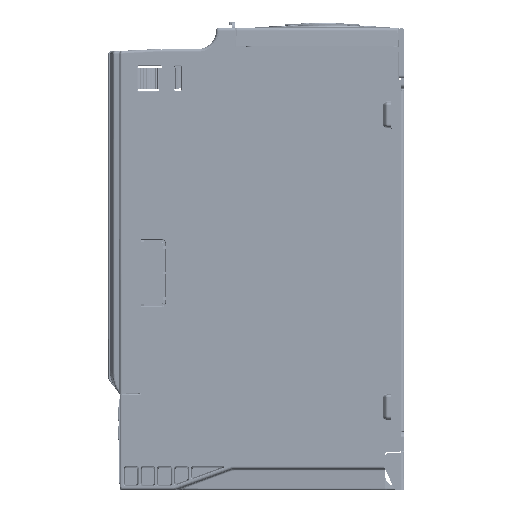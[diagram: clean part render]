
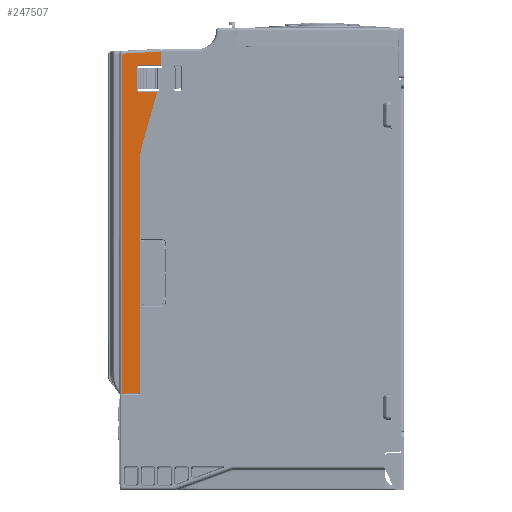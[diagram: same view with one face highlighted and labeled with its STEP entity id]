
A CAD part, left-side view. The second image highlights one B-rep face of the part: STEP entity #247507.
In plain terms, the highlighted planar face has unit normal (-1, 0, 0).
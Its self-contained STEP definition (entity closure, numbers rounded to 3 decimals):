
#7418=CIRCLE('',#265153,30.5);
#7419=CIRCLE('',#265154,1.002);
#7420=CIRCLE('',#265155,1.002);
#18666=PLANE('',#265152);
#31492=FACE_OUTER_BOUND('',#46043,.T.);
#46043=EDGE_LOOP('',(#223616,#223617,#223618,#223619,#223620,#223621,#223622,
#223623,#223624,#223625,#223626,#223627,#223628,#223629));
#69779=LINE('',#475075,#94712);
#69782=LINE('',#475087,#94715);
#69785=LINE('',#475096,#94718);
#69786=LINE('',#475098,#94719);
#69787=LINE('',#475102,#94720);
#69788=LINE('',#475104,#94721);
#69789=LINE('',#475114,#94722);
#69790=LINE('',#475123,#94723);
#69791=LINE('',#475124,#94724);
#94712=VECTOR('',#319901,11.498);
#94715=VECTOR('',#319908,6.972);
#94718=VECTOR('',#319917,9.501);
#94719=VECTOR('',#319918,121.202);
#94720=VECTOR('',#319921,29.477);
#94721=VECTOR('',#319922,9.645);
#94722=VECTOR('',#319925,11.008);
#94723=VECTOR('',#319928,20.528);
#94724=VECTOR('',#319929,177.915);
#101072=B_SPLINE_CURVE_WITH_KNOTS('',3,(#475108,#475109,#475110,#475111,
#475112),.UNSPECIFIED.,.F.,.F.,(4,1,4),(0.,0.5,1.),.UNSPECIFIED.);
#101073=B_SPLINE_CURVE_WITH_KNOTS('',3,(#475116,#475117,#475118,#475119,
#475120),.UNSPECIFIED.,.F.,.F.,(4,1,4),(0.,0.5,1.),.UNSPECIFIED.);
#122113=VERTEX_POINT('',#475072);
#122114=VERTEX_POINT('',#475074);
#122117=VERTEX_POINT('',#475082);
#122119=VERTEX_POINT('',#475094);
#122120=VERTEX_POINT('',#475095);
#122121=VERTEX_POINT('',#475097);
#122122=VERTEX_POINT('',#475099);
#122123=VERTEX_POINT('',#475101);
#122124=VERTEX_POINT('',#475103);
#122125=VERTEX_POINT('',#475105);
#122126=VERTEX_POINT('',#475107);
#122127=VERTEX_POINT('',#475113);
#122128=VERTEX_POINT('',#475115);
#122129=VERTEX_POINT('',#475122);
#156477=EDGE_CURVE('',#122114,#122113,#69779,.T.);
#156482=EDGE_CURVE('',#122117,#122113,#69782,.T.);
#156486=EDGE_CURVE('',#122119,#122120,#69785,.T.);
#156487=EDGE_CURVE('',#122119,#122121,#69786,.T.);
#156488=EDGE_CURVE('',#122121,#122122,#7418,.T.);
#156489=EDGE_CURVE('',#122122,#122123,#69787,.T.);
#156490=EDGE_CURVE('',#122124,#122123,#69788,.T.);
#156491=EDGE_CURVE('',#122125,#122124,#7419,.T.);
#156492=EDGE_CURVE('',#122126,#122125,#101072,.T.);
#156493=EDGE_CURVE('',#122126,#122127,#69789,.T.);
#156494=EDGE_CURVE('',#122128,#122127,#101073,.T.);
#156495=EDGE_CURVE('',#122128,#122114,#7420,.T.);
#156496=EDGE_CURVE('',#122129,#122117,#69790,.T.);
#156497=EDGE_CURVE('',#122129,#122120,#69791,.T.);
#223616=ORIENTED_EDGE('',*,*,#156486,.F.);
#223617=ORIENTED_EDGE('',*,*,#156487,.T.);
#223618=ORIENTED_EDGE('',*,*,#156488,.T.);
#223619=ORIENTED_EDGE('',*,*,#156489,.T.);
#223620=ORIENTED_EDGE('',*,*,#156490,.F.);
#223621=ORIENTED_EDGE('',*,*,#156491,.F.);
#223622=ORIENTED_EDGE('',*,*,#156492,.F.);
#223623=ORIENTED_EDGE('',*,*,#156493,.T.);
#223624=ORIENTED_EDGE('',*,*,#156494,.F.);
#223625=ORIENTED_EDGE('',*,*,#156495,.T.);
#223626=ORIENTED_EDGE('',*,*,#156477,.T.);
#223627=ORIENTED_EDGE('',*,*,#156482,.F.);
#223628=ORIENTED_EDGE('',*,*,#156496,.F.);
#223629=ORIENTED_EDGE('',*,*,#156497,.T.);
#247507=ADVANCED_FACE('',(#31492),#18666,.T.);
#265152=AXIS2_PLACEMENT_3D('',#475093,#319915,#319916);
#265153=AXIS2_PLACEMENT_3D('',#475100,#319919,#319920);
#265154=AXIS2_PLACEMENT_3D('',#475106,#319923,#319924);
#265155=AXIS2_PLACEMENT_3D('',#475121,#319926,#319927);
#319901=DIRECTION('',(0.,-1.,0.));
#319908=DIRECTION('',(0.,0.,-1.));
#319915=DIRECTION('center_axis',(-1.,0.,0.));
#319916=DIRECTION('ref_axis',(0.,0.,1.));
#319917=DIRECTION('',(0.,1.,-0.017));
#319918=DIRECTION('',(0.,0.,1.));
#319919=DIRECTION('center_axis',(1.,0.,0.));
#319920=DIRECTION('ref_axis',(0.,1.,0.));
#319921=DIRECTION('',(0.,-0.271,0.962));
#319922=DIRECTION('',(0.,-1.,0.));
#319923=DIRECTION('center_axis',(-1.,0.,0.));
#319924=DIRECTION('ref_axis',(0.,0.87,0.494));
#319925=DIRECTION('',(0.,0.,1.));
#319926=DIRECTION('center_axis',(1.,0.,0.));
#319927=DIRECTION('ref_axis',(0.,0.87,-0.494));
#319928=DIRECTION('',(0.,-0.999,0.052));
#319929=DIRECTION('',(0.,0.,-1.));
#475072=CARTESIAN_POINT('',(-50.,127.5,101.5));
#475074=CARTESIAN_POINT('',(-50.,138.998,101.5));
#475075=CARTESIAN_POINT('',(-50.,138.998,101.5));
#475082=CARTESIAN_POINT('',(-50.,127.5,108.472));
#475087=CARTESIAN_POINT('',(-50.,127.5,108.472));
#475093=CARTESIAN_POINT('Origin',(-50.,0.,-121.));
#475094=CARTESIAN_POINT('',(-50.,138.5,-70.352));
#475095=CARTESIAN_POINT('',(-50.,148.,-70.518));
#475096=CARTESIAN_POINT('',(-50.,138.5,-70.352));
#475097=CARTESIAN_POINT('',(-50.,138.5,50.85));
#475098=CARTESIAN_POINT('',(-50.,138.5,-70.352));
#475099=CARTESIAN_POINT('',(-50.,137.355,59.13));
#475100=CARTESIAN_POINT('Origin',(-50.,108.,50.85));
#475101=CARTESIAN_POINT('',(-50.,129.353,87.5));
#475102=CARTESIAN_POINT('',(-50.,137.355,59.13));
#475103=CARTESIAN_POINT('',(-50.,138.998,87.5));
#475104=CARTESIAN_POINT('',(-50.,138.998,87.5));
#475105=CARTESIAN_POINT('',(-50.,139.869,88.997));
#475106=CARTESIAN_POINT('Origin',(-50.,138.998,88.502));
#475107=CARTESIAN_POINT('',(-50.,139.973,88.996));
#475108=CARTESIAN_POINT('Ctrl Pts',(-50.,139.973,88.996));
#475109=CARTESIAN_POINT('Ctrl Pts',(-50.,139.956,88.996));
#475110=CARTESIAN_POINT('Ctrl Pts',(-50.,139.921,88.996));
#475111=CARTESIAN_POINT('Ctrl Pts',(-50.,139.887,88.997));
#475112=CARTESIAN_POINT('Ctrl Pts',(-50.,139.869,88.997));
#475113=CARTESIAN_POINT('',(-50.,139.973,100.004));
#475114=CARTESIAN_POINT('',(-50.,139.973,88.996));
#475115=CARTESIAN_POINT('',(-50.,139.869,100.003));
#475116=CARTESIAN_POINT('Ctrl Pts',(-50.,139.869,100.003));
#475117=CARTESIAN_POINT('Ctrl Pts',(-50.,139.887,100.003));
#475118=CARTESIAN_POINT('Ctrl Pts',(-50.,139.921,100.004));
#475119=CARTESIAN_POINT('Ctrl Pts',(-50.,139.956,100.004));
#475120=CARTESIAN_POINT('Ctrl Pts',(-50.,139.973,100.004));
#475121=CARTESIAN_POINT('Origin',(-50.,138.998,100.498));
#475122=CARTESIAN_POINT('',(-50.,148.,107.397));
#475123=CARTESIAN_POINT('',(-50.,148.,107.397));
#475124=CARTESIAN_POINT('',(-50.,148.,107.397));
